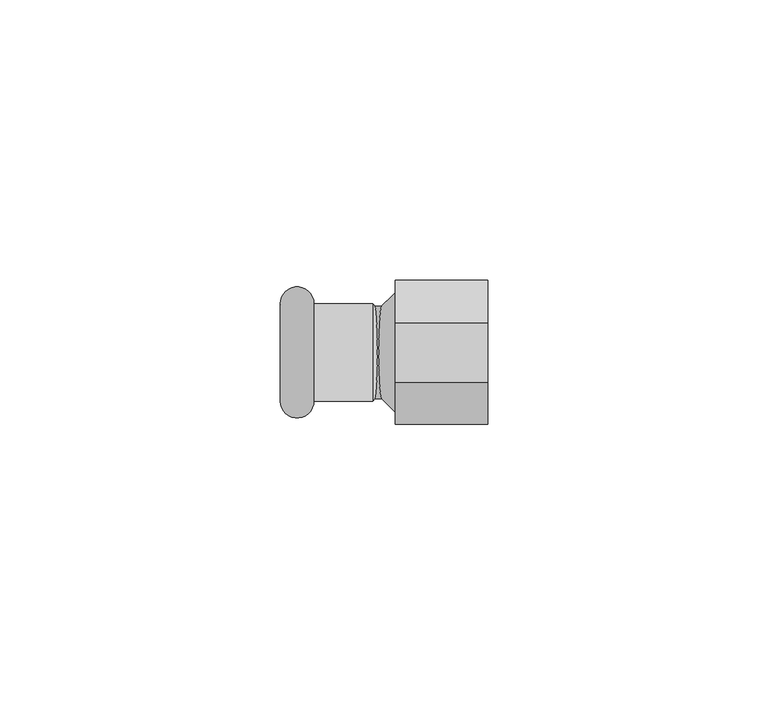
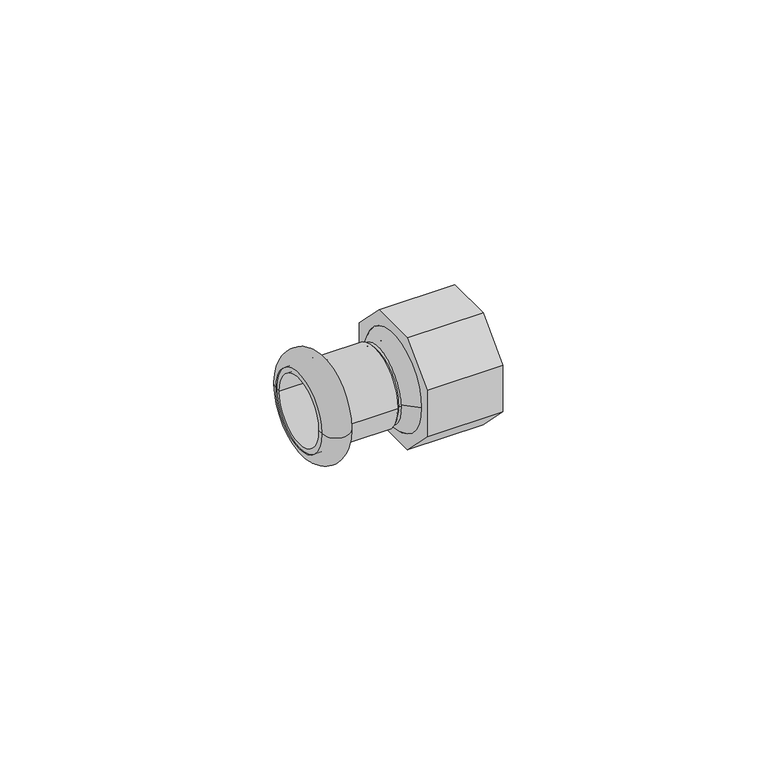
"""IFC4 building model written with IfcOpenShell, lengths in millimetres: pipe fitting geometry."""

from ifc_helpers import new_model, si_unit, point, frame, origin, place, context, project, spatial, polyline, circle_curve, ellipse_curve, trimmed, source, transform, mapped, element, save
from ifc_brep_helpers import plane_surface, cylinder_surface, revolved_surface, advanced_brep


def pipe_fitting_93ddfdb1(model_context):
    return source(origin(), model_context, "Body", "AdvancedBrep", [
        advanced_brep(
        [(-18.5, 8.7, 0.0), (-18.5, -8.7, 0.0), (-12.4987073, -8.7, 0.0), (-12.4987073, 8.7, 0.0)],
        [
            (0, 1, circle_curve(frame((-18.5, 0.0, 0.0), z_axis=(-1.0, 0.0, 0.0), x_axis=(0.0, -1.0, 0.0)), 8.7)),
            (1, 2),
            (2, 3, circle_curve(frame((-12.4987073, 0.0, 0.0), z_axis=(1.0, 0.0, 0.0), x_axis=(0.0, -1.0, 0.0)), 8.7)),
            (3, 0),
            (1, 0, circle_curve(frame((-18.5, 0.0, 0.0), z_axis=(-1.0, 0.0, 0.0), x_axis=(0.0, -1.0, 0.0)), 8.7)),
            (3, 2, circle_curve(frame((-12.4987073, 0.0, 0.0), z_axis=(1.0, 0.0, 0.0), x_axis=(0.0, -1.0, 0.0)), 8.7)),
            (2, 1, circle_curve(frame((-15.4993536, -8.7, 0.0), z_axis=(0.0, 0.0, -1.0), x_axis=(-1.0, 0.0, 0.0)), 3.0006464)),
            (0, 3, circle_curve(frame((-15.4993536, 8.7, 0.0), z_axis=(0.0, 0.0, -1.0), x_axis=(-1.0, 0.0, 0.0)), 3.0006464)),
        ],
        [
            revolved_surface(polyline([(-12.4987073, -8.7, 0.0), (-18.5, -8.7, 0.0)]), (-2.0, 0.0, 0.0), (1.0, 0.0, 0.0)),
            revolved_surface(trimmed(ellipse_curve(frame((-15.4993536, -8.7, 0.0), z_axis=(0.0, 0.0, 1.0), x_axis=(-1.0, 0.0, 0.0)), 3.0006464, 3.0006464), [point((-18.5, -8.7, 0.0))], [point((-12.4987073, -8.7, 0.0))], True, "CARTESIAN"), (-2.0, 0.0, 0.0), (1.0, 0.0, 0.0)),
        ],
        [
            (0, [[1, 2, 3, 4]]),
            (0, [[5, -4, 6, -2]]),
            (1, [[-3, 7, -1, 8]]),
            (1, [[-6, -8, -5, -7]]),
        ],
    ),
        advanced_brep(
        [(-18.5, 7.5, 0.0), (-18.5, -7.5, 0.0), (-1.0, -7.5, 0.0), (-1.0, 7.5, 0.0), (-18.5, 8.7, 0.0), (-18.5, -8.7, 0.0), (-2.0, 8.7, 0.0), (-2.0, -8.7, 0.0)],
        [
            (0, 1, circle_curve(frame((-18.5, 0.0, 0.0), z_axis=(-1.0, 0.0, 0.0), x_axis=(0.0, -1.0, 0.0)), 7.5)),
            (1, 2),
            (2, 3, circle_curve(frame((-1.0, 0.0, 0.0), z_axis=(1.0, 0.0, 0.0), x_axis=(0.0, -1.0, 0.0)), 7.5)),
            (3, 0),
            (1, 0, circle_curve(frame((-18.5, 0.0, 0.0), z_axis=(-1.0, 0.0, 0.0), x_axis=(0.0, -1.0, 0.0)), 7.5)),
            (3, 2, circle_curve(frame((-1.0, 0.0, 0.0), z_axis=(1.0, 0.0, 0.0), x_axis=(0.0, -1.0, 0.0)), 7.5)),
            (4, 5, circle_curve(frame((-18.5, 0.0, 0.0), z_axis=(-1.0, 0.0, 0.0), x_axis=(0.0, -1.0, 0.0)), 8.7)),
            (5, 1),
            (0, 4),
            (5, 4, circle_curve(frame((-18.5, 0.0, 0.0), z_axis=(-1.0, 0.0, 0.0), x_axis=(0.0, -1.0, 0.0)), 8.7)),
            (6, 7, circle_curve(frame((-2.0, 0.0, 0.0), z_axis=(-1.0, 0.0, 0.0), x_axis=(0.0, -1.0, 0.0)), 8.7)),
            (7, 5),
            (4, 6),
            (7, 6, circle_curve(frame((-2.0, 0.0, 0.0), z_axis=(-1.0, 0.0, 0.0), x_axis=(0.0, -1.0, 0.0)), 8.7)),
            (2, 7),
            (6, 3),
        ],
        [
            revolved_surface(polyline([(-1.0, -7.5, 0.0), (-18.5, -7.5, 0.0)]), (-2.0, 0.0, 0.0), (1.0, 0.0, 0.0)),
            plane_surface(frame((-18.5, 0.0, 0.0), z_axis=(-1.0, 0.0, 0.0), x_axis=(0.0, -1.0, 0.0))),
            cylinder_surface(frame((-2.0, 0.0, 0.0), z_axis=(1.0, 0.0, 0.0), x_axis=(0.0, -1.0, 0.0)), 8.7),
            revolved_surface(polyline([(-2.0, -8.7, 0.0), (-1.0, -7.5, 0.0)]), (-2.0, 0.0, 0.0), (1.0, 0.0, 0.0)),
        ],
        [
            (0, [[1, 2, 3, 4]]),
            (0, [[5, -4, 6, -2]]),
            (1, [[7, 8, -1, 9]]),
            (1, [[10, -9, -5, -8]]),
            (2, [[11, 12, -7, 13]]),
            (2, [[14, -13, -10, -12]]),
            (3, [[-3, 15, -11, 16]]),
            (3, [[-6, -16, -14, -15]]),
        ],
    ),
        advanced_brep(
        [(18.5, 12.8556872, 5.325), (18.5, 5.325, 12.8556872), (18.5, -5.325, 12.8556872), (18.5, -12.8556872, 5.325), (18.5, -12.8556872, -5.325), (18.5, -5.325, -12.8556872), (18.5, 5.325, -12.8556872), (18.5, 12.8556872, -5.325), (18.5, -10.65, 0.0), (18.5, 10.65, 0.0), (2.0, 12.8556872, 5.325), (2.0, 12.8556872, -5.325), (2.0, 5.325, -12.8556872), (2.0, -5.325, -12.8556872), (2.0, -12.8556872, -5.325), (2.0, -12.8556872, 5.325), (2.0, -5.325, 12.8556872), (2.0, 5.325, 12.8556872), (2.0, -10.6788231, 0.0), (2.0, 10.6788231, 0.0), (2.0, -10.65, 0.0), (2.0, 10.65, 0.0), (2.0, -7.6788231, 0.0), (2.0, 7.6788231, 0.0), (-1.0, -7.6788231, 0.0), (-1.0, 7.6788231, 0.0)],
        [
            (0, 1),
            (1, 2),
            (2, 3),
            (3, 4),
            (4, 5),
            (5, 6),
            (6, 7),
            (7, 0),
            (8, 9, circle_curve(frame((18.5, 0.0, 0.0), z_axis=(-1.0, 0.0, 0.0), x_axis=(0.0, 1.0, 0.0)), 10.65)),
            (9, 8, circle_curve(frame((18.5, 0.0, 0.0), z_axis=(-1.0, 0.0, 0.0), x_axis=(0.0, 1.0, 0.0)), 10.65)),
            (10, 11),
            (11, 12),
            (12, 13),
            (13, 14),
            (14, 15),
            (15, 16),
            (16, 17),
            (17, 10),
            (18, 19, circle_curve(frame((2.0, 0.0, 0.0), z_axis=(1.0, 0.0, 0.0), x_axis=(0.0, 1.0, 0.0)), 10.6788231)),
            (19, 18, circle_curve(frame((2.0, 0.0, 0.0), z_axis=(1.0, 0.0, 0.0), x_axis=(0.0, -1.0, 0.0)), 10.6788231)),
            (8, 20),
            (20, 21, circle_curve(frame((2.0, 0.0, 0.0), z_axis=(-1.0, 0.0, 0.0), x_axis=(0.0, 1.0, 0.0)), 10.65)),
            (21, 9),
            (21, 20, circle_curve(frame((2.0, 0.0, 0.0), z_axis=(-1.0, 0.0, 0.0), x_axis=(0.0, 1.0, 0.0)), 10.65)),
            (0, 10),
            (17, 1),
            (16, 2),
            (15, 3),
            (14, 4),
            (13, 5),
            (12, 6),
            (11, 7),
            (22, 23, circle_curve(frame((2.0, 0.0, 0.0), z_axis=(-1.0, 0.0, 0.0), x_axis=(0.0, -1.0, 0.0)), 7.6788231)),
            (23, 22, circle_curve(frame((2.0, 0.0, 0.0), z_axis=(-1.0, 0.0, 0.0), x_axis=(0.0, 1.0, 0.0)), 7.6788231)),
            (24, 25, circle_curve(frame((-1.0, 0.0, 0.0), z_axis=(1.0, 0.0, 0.0), x_axis=(0.0, 1.0, 0.0)), 7.6788231)),
            (25, 19),
            (18, 24),
            (23, 25),
            (24, 22),
            (25, 24, circle_curve(frame((-1.0, 0.0, 0.0), z_axis=(1.0, 0.0, 0.0), x_axis=(0.0, -1.0, 0.0)), 7.6788231)),
        ],
        [
            plane_surface(frame((18.5, 10.65, 0.0), z_axis=(1.0, 0.0, 0.0), x_axis=(0.0, 0.0, -1.0))),
            plane_surface(frame((2.0, 10.65, 0.0), z_axis=(-1.0, 0.0, 0.0), x_axis=(0.0, 0.0, 1.0))),
            revolved_surface(polyline([(2.0, 10.65, 0.0), (18.5, 10.65, 0.0)]), (2.0, 0.0, 0.0), (-1.0, 0.0, 0.0)),
            plane_surface(frame((18.5, 12.8556872, 5.325), z_axis=(0.0, 0.7071067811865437, 0.7071067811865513), x_axis=(-1.0, 0.0, 0.0))),
            plane_surface(frame((18.5, 5.325, 12.8556872), z_axis=(0.0, 0.0, 1.0), x_axis=(-1.0, 0.0, 0.0))),
            plane_surface(frame((18.5, -5.325, 12.8556872), z_axis=(0.0, -0.7071067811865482, 0.7071067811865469), x_axis=(-1.0, 0.0, 0.0))),
            plane_surface(frame((18.5, -12.8556872, 5.325), z_axis=(0.0, -1.0, 0.0), x_axis=(-1.0, 0.0, 0.0))),
            plane_surface(frame((18.5, -12.8556872, -5.325), z_axis=(0.0, -0.7071067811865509, -0.7071067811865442), x_axis=(-1.0, 0.0, 0.0))),
            plane_surface(frame((18.5, -5.325, -12.8556872), z_axis=(0.0, 0.0, -1.0), x_axis=(-1.0, 0.0, 0.0))),
            plane_surface(frame((18.5, 5.325, -12.8556872), z_axis=(0.0, 0.7071067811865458, -0.7071067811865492), x_axis=(-1.0, 0.0, 0.0))),
            plane_surface(frame((18.5, 12.8556872, -5.325), z_axis=(0.0, 1.0, 0.0), x_axis=(-1.0, 0.0, 0.0))),
            plane_surface(frame((2.0, 0.0, 0.0), z_axis=(1.0, 0.0, 0.0), x_axis=(0.0, -1.0, 0.0))),
            revolved_surface(polyline([(2.0, 10.6788231, 0.0), (-1.0, 7.6788231, 0.0)]), (2.0, 0.0, 0.0), (-1.0, 0.0, 0.0)),
            revolved_surface(polyline([(-1.0, 7.6788231, 0.0), (2.0, 7.6788231, 0.0)]), (2.0, 0.0, 0.0), (-1.0, 0.0, 0.0)),
            revolved_surface(polyline([(2.0, -10.6788231, 0.0), (-1.0, -7.6788231, 0.0)]), (2.0, 0.0, 0.0), (-1.0, 0.0, 0.0)),
            revolved_surface(polyline([(-1.0, -7.6788231, 0.0), (2.0, -7.6788231, 0.0)]), (2.0, 0.0, 0.0), (-1.0, 0.0, 0.0)),
        ],
        [
            (0, [[1, 2, 3, 4, 5, 6, 7, 8], [9, 10]]),
            (1, [[11, 12, 13, 14, 15, 16, 17, 18], [19, 20]]),
            (2, [[-9, 21, 22, 23]]),
            (2, [[-10, -23, 24, -21]]),
            (3, [[-1, 25, -18, 26]]),
            (4, [[-2, -26, -17, 27]]),
            (5, [[-3, -27, -16, 28]]),
            (6, [[-4, -28, -15, 29]]),
            (7, [[-5, -29, -14, 30]]),
            (8, [[-6, -30, -13, 31]]),
            (9, [[-7, -31, -12, 32]]),
            (10, [[-8, -32, -11, -25]]),
            (11, [[-22, -24], [33, 34]]),
            (12, [[35, 36, -19, 37]]),
            (13, [[-34, 38, -35, 39]]),
            (14, [[-36, 40, -37, -20]]),
            (15, [[-33, -39, -40, -38]]),
        ],
    ),
        advanced_brep(
        [(-2.0, -8.25, 0.0), (-2.0, 8.25, 0.0), (2.0, 8.25, 0.0), (2.0, -8.25, 0.0), (-2.0, 0.0, 0.0), (2.0, 0.0, 0.0)],
        [
            (0, 1, circle_curve(frame((-2.0, 0.0, 0.0), z_axis=(1.0, 0.0, 0.0), x_axis=(0.0, 1.0, 0.0)), 8.25)),
            (1, 2),
            (2, 3, circle_curve(frame((2.0, 0.0, 0.0), z_axis=(-1.0, 0.0, 0.0), x_axis=(0.0, 1.0, 0.0)), 8.25)),
            (3, 0),
            (1, 0, circle_curve(frame((-2.0, 0.0, 0.0), z_axis=(1.0, 0.0, 0.0), x_axis=(0.0, 1.0, 0.0)), 8.25)),
            (3, 2, circle_curve(frame((2.0, 0.0, 0.0), z_axis=(-1.0, 0.0, 0.0), x_axis=(0.0, 1.0, 0.0)), 8.25)),
            (4, 1),
            (0, 4),
            (2, 5),
            (5, 3),
        ],
        [
            cylinder_surface(frame((-2.0, 0.0, 0.0), z_axis=(-1.0, 0.0, 0.0), x_axis=(0.0, 1.0, 0.0)), 8.25),
            plane_surface(frame((-2.0, 0.0, 0.0), z_axis=(-1.0, 0.0, 0.0), x_axis=(0.0, 1.0, 0.0))),
            plane_surface(frame((2.0, 0.0, 0.0), z_axis=(1.0, 0.0, 0.0), x_axis=(0.0, 1.0, 0.0))),
        ],
        [
            (0, [[1, 2, 3, 4]]),
            (0, [[5, -4, 6, -2]]),
            (1, [[7, -1, 8]]),
            (1, [[-8, -5, -7]]),
            (2, [[-3, 9, 10]]),
            (2, [[-6, -10, -9]]),
        ],
    ),
    ])


if __name__ == "__main__":
    model = new_model("IFC4")
    model_context = context("Model", 3, world=origin())
    ifc_project = project(units=[si_unit("LENGTHUNIT", "METRE", prefix="MILLI")], contexts=[model_context])
    site = spatial("IfcSite", under=ifc_project)
    building = spatial("IfcBuilding", under=site)
    placement = place(None, origin())
    pipe_fitting_shape = pipe_fitting_93ddfdb1(model_context)
    element("IfcPipeFitting", 1, ObjectType="NLRS_50_PIF_UN_Geberit Mapress Therm overgang met binnendraad_PRO_3208043 : DN10-50-Rp2\" / d12-54-Rp2\" - OD", at=placement, inside=building, context=model_context, shape_type="MappedRepresentation", body=[
        mapped(pipe_fitting_shape, transform((0.0, 0.0, 0.0), x_axis=(1.0, 0.0, 0.0), y_axis=(0.0, 1.0, 0.0), z_axis=(0.0, 0.0, 1.0))),
    ])
    save(model, "model.ifc")
